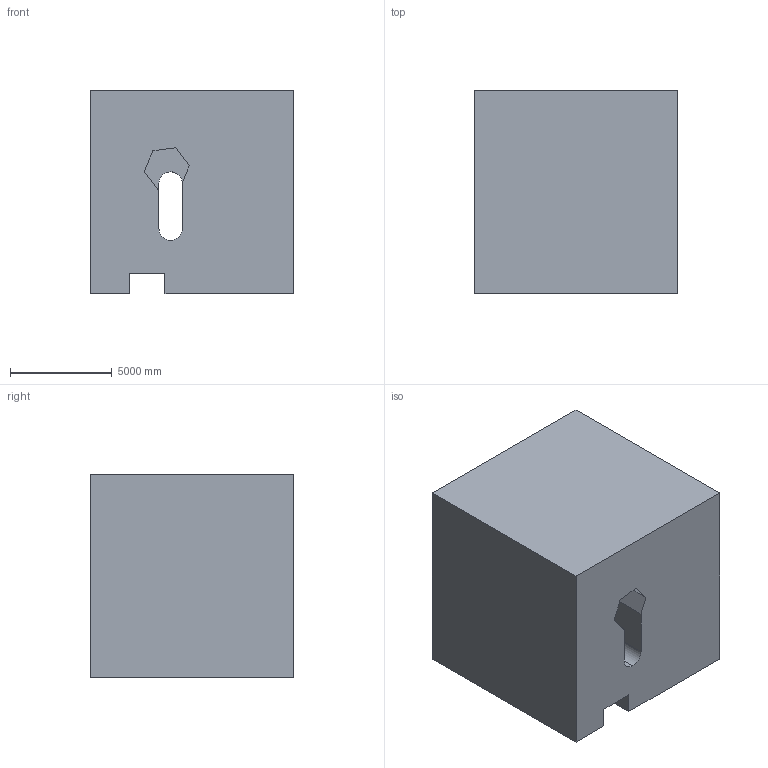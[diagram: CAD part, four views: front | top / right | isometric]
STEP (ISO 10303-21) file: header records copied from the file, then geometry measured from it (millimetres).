
FILE_DESCRIPTION (( 'STEP AP203' ), '1' );
FILE_NAME ('297.STEP', '2022-09-07T15:14:36', ( 'user' ), ( '' ), 'SwSTEP 2.0', 'SolidWorks 2021', '' );
FILE_SCHEMA (( 'CONFIG_CONTROL_DESIGN' ));
Length unit declared in the file: centimetre
Products named in the file (1): 297
Bounding box: 10000 x 10000 x 10000 mm (x, y, z)
Volume: 897252834094.7 mm3; surface area: 773072052.6 mm2
Topology: 1 solids, 1 shells, 30 faces, 80 edges, 53 vertices
Faces by surface type: plane 22, cylinder 8
Entity records: 1239 total; most frequent: CARTESIAN_POINT 390, ORIENTED_EDGE 160, DIRECTION 156, EDGE_CURVE 80, VECTOR 62, LINE 62, VERTEX_POINT 53, AXIS2_PLACEMENT_3D 47
